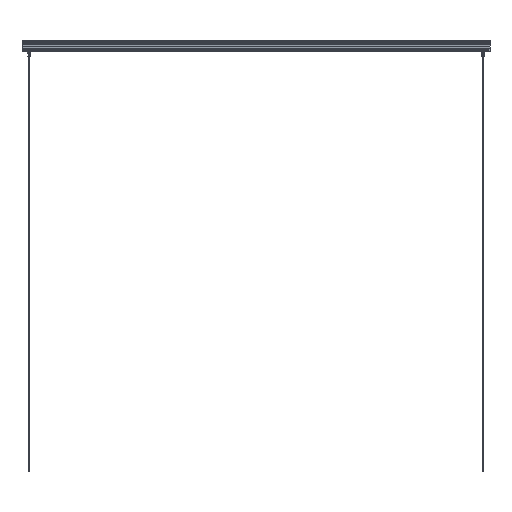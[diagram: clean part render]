
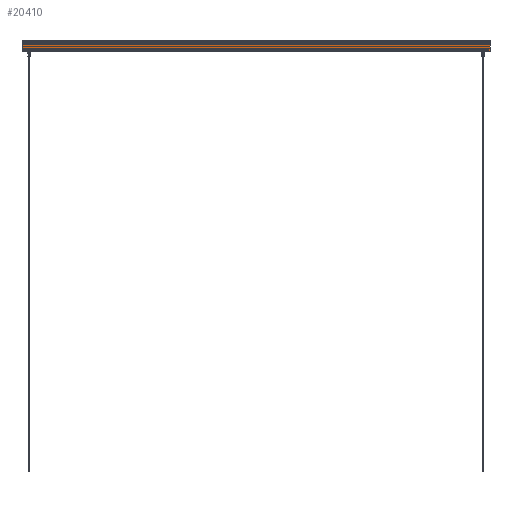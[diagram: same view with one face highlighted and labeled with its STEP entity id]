
A CAD part, front view. The second image highlights one B-rep face of the part: STEP entity #20410.
In plain terms, the highlighted planar face has unit normal (0, -1, 0).
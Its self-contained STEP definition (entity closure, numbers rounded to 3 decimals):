
#6835=ORIENTED_EDGE('',*,*,#10497,.T.);
#6836=ORIENTED_EDGE('',*,*,#10498,.T.);
#6837=ORIENTED_EDGE('',*,*,#10499,.F.);
#6838=ORIENTED_EDGE('',*,*,#10500,.T.);
#10497=EDGE_CURVE('',#12625,#12626,#14553,.T.);
#10498=EDGE_CURVE('',#12626,#12627,#14554,.T.);
#10499=EDGE_CURVE('',#12628,#12627,#14555,.T.);
#10500=EDGE_CURVE('',#12628,#12625,#14556,.F.);
#12625=VERTEX_POINT('',#39472);
#12626=VERTEX_POINT('',#39473);
#12627=VERTEX_POINT('',#39475);
#12628=VERTEX_POINT('',#39477);
#14553=LINE('',#39471,#16473);
#14554=LINE('',#39474,#16474);
#14555=LINE('',#39476,#16475);
#14556=LINE('',#39478,#16476);
#16473=VECTOR('',#32484,1000.);
#16474=VECTOR('',#32485,1000.);
#16475=VECTOR('',#32486,1000.);
#16476=VECTOR('',#32487,1000.);
#17566=EDGE_LOOP('',(#6835,#6836,#6837,#6838));
#18730=FACE_BOUND('',#17566,.T.);
#19394=PLANE('',#26829);
#20410=ADVANCED_FACE('',(#18730),#19394,.T.);
#26829=AXIS2_PLACEMENT_3D('',#39470,#32482,#32483);
#32482=DIRECTION('',(0.,-1.,0.));
#32483=DIRECTION('',(0.,0.,-1.));
#32484=DIRECTION('',(0.,0.,1.));
#32485=DIRECTION('',(-1.,0.,0.));
#32486=DIRECTION('',(0.,0.,1.));
#32487=DIRECTION('',(-1.,0.,0.));
#39470=CARTESIAN_POINT('',(18.5,0.,-20.));
#39471=CARTESIAN_POINT('',(18.5,0.,-20.));
#39472=CARTESIAN_POINT('',(18.5,0.,-19.8));
#39473=CARTESIAN_POINT('',(18.5,0.,17.8));
#39474=CARTESIAN_POINT('',(18.5,0.,17.8));
#39475=CARTESIAN_POINT('',(-1636.5,0.,17.8));
#39476=CARTESIAN_POINT('',(-1636.5,0.,-20.));
#39477=CARTESIAN_POINT('',(-1636.5,0.,-19.8));
#39478=CARTESIAN_POINT('',(18.5,0.,-19.8));
